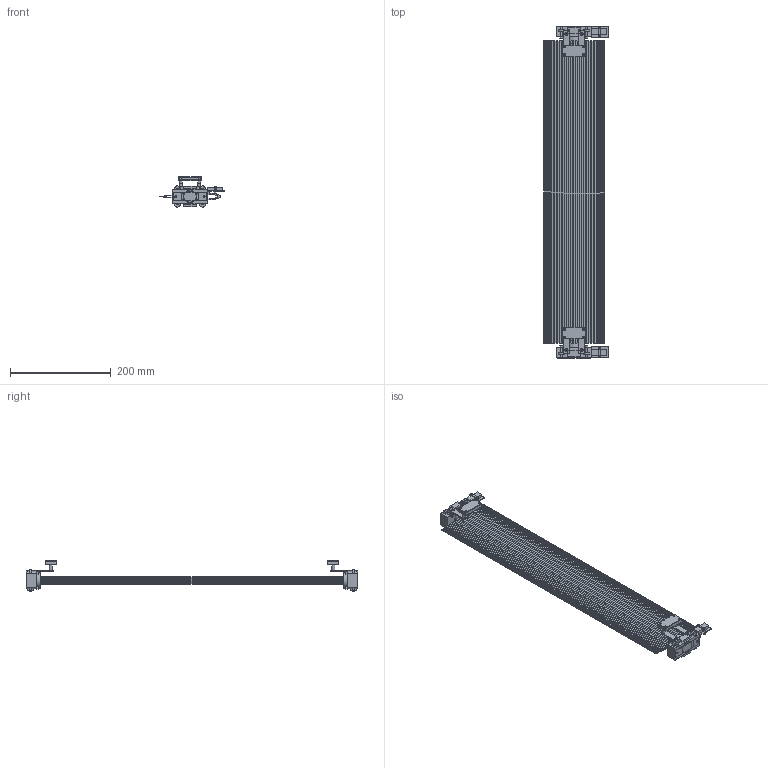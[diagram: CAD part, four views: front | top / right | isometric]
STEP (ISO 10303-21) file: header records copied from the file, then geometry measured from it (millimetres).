
FILE_DESCRIPTION(('FreeCAD Model'),'2;1');
FILE_NAME('Open CASCADE Shape Model','2026-10-29T17:55:21',('FreeCAD'),( 'FreeCAD'),'Open CASCADE STEP processor 7.8','FreeCAD','Unknown');
FILE_SCHEMA(('AUTOMOTIVE_DESIGN { 1 0 10303 214 1 1 1 1 }'));
Length unit declared in the file: millimetre
Products named in the file (1): Open CASCADE STEP translator 7.8 1
Bounding box: 128 x 658 x 60 mm (x, y, z)
Volume: 401515.3 mm3; surface area: 378816.4 mm2
Topology: 102 solids, 102 shells, 1311 faces, 2975 edges, 1950 vertices
Faces by surface type: plane 1002, cylinder 241, cone 68
Full cylindrical faces by diameter (mm): 2 x60, 2.4 x36, 3 x16, 3.2 x16, 3.4 x4, 5 x4, 5.5 x8, 6 x4, 7 x8, 8 x3, 8.4 x4, 12 x8, 16 x1, 22 x2, 22.2 x2, 24 x1, 24.4 x2, 30 x2
Entity records: 36487 total; most frequent: CARTESIAN_POINT 6237, DIRECTION 6173, ORIENTED_EDGE 5950, EDGE_CURVE 2975, LINE 2401, VECTOR 2401, VERTEX_POINT 1950, AXIS2_PLACEMENT_3D 1886
